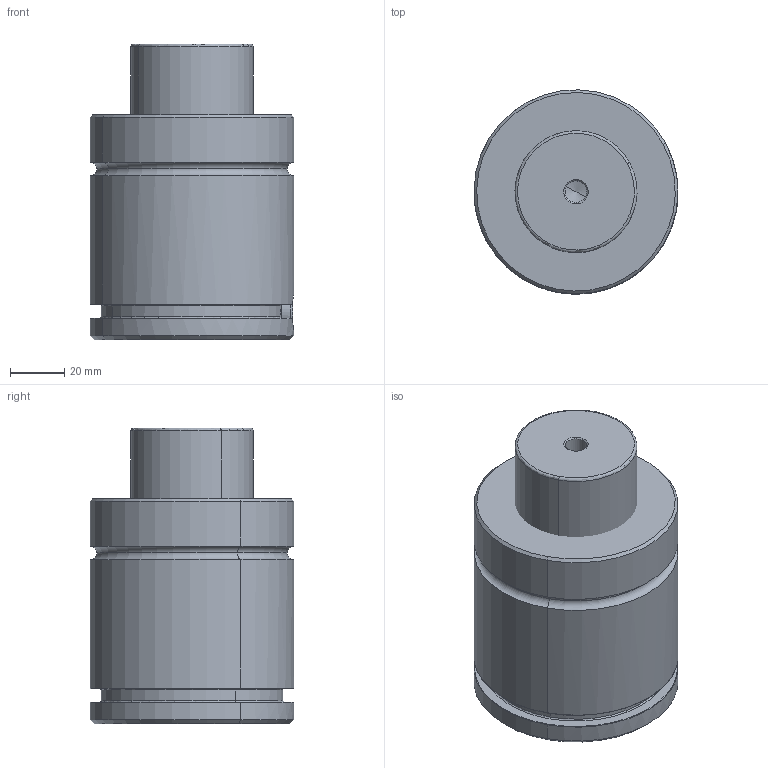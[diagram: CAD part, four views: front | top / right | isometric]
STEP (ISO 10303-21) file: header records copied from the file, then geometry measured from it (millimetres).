
FILE_DESCRIPTION(('CATIA V5 STEP Exchange'),'2;1');
FILE_NAME('W:\CATALOGO GENERAL 2018\FICHEROS CAD\001-MICRO\MICRO 75CF\MICRO 75CFx25.stp','2017-10-27T08:13:06+00:00',('none'),('none'),'CATIA Version 5 Release 17 (IN-10)','CATIA V5 STEP AP203','none');
FILE_SCHEMA(('CONFIG_CONTROL_DESIGN'));
Length unit declared in the file: millimetre
Products named in the file (1): MICRO 75CFx25
Assembly tree (3 placements, depth 2):
  MICRO 75CFx25
    #56
    #1294
    #3494
Bounding box: 75.19 x 75.18 x 109 mm (x, y, z)
Volume: 418692 mm3; surface area: 48394.7 mm2
Topology: 3 solids, 3 shells, 189 faces, 408 edges, 228 vertices
Faces by surface type: torus 67, cone 60, cylinder 39, plane 23
Entity records: 5737 total; most frequent: CARTESIAN_POINT 1834, ORIENTED_EDGE 796, DIRECTION 699, EDGE_CURVE 398, AXIS2_PLACEMENT_3D 397, VERTEX_POINT 228, CIRCLE 209, EDGE_LOOP 202
